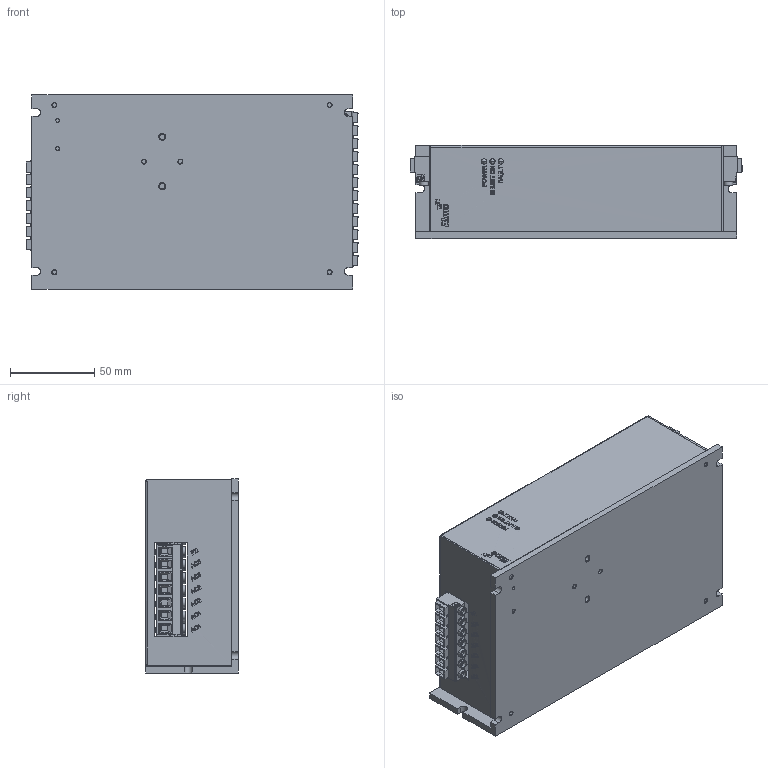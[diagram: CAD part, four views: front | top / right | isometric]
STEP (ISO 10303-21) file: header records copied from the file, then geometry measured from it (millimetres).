
FILE_DESCRIPTION (( 'STEP AP203' ), '1' );
FILE_NAME ('Tam-480.STEP', '2018-12-09T08:03:43', ( 'user' ), ( 'Microsoft' ), 'SwSTEP 2.0', 'SolidWorks 2018', '' );
FILE_SCHEMA (( 'CONFIG_CONTROL_DESIGN' ));
Products named in the file (1): Tam-480
Bounding box: 196.63 x 55 x 115 mm (x, y, z)
Surface area: 172592 mm2 (no closed solid volume)
Topology: 0 solids, 37 shells, 3487 faces, 10790 edges, 7708 vertices
Faces by surface type: bspline 3487
Entity records: 135479 total; most frequent: CARTESIAN_POINT 72755, ORIENTED_EDGE 20905, EDGE_CURVE 10506, B_SPLINE_CURVE_WITH_KNOTS 9096, VERTEX_POINT 7712, EDGE_LOOP 4173, FACE_OUTER_BOUND 3705, ADVANCED_FACE 3480
